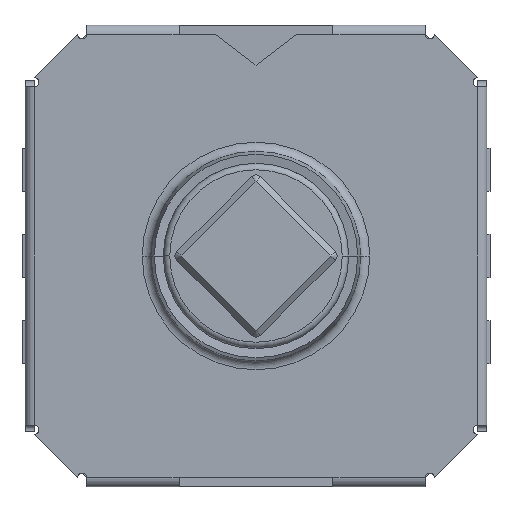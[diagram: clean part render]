
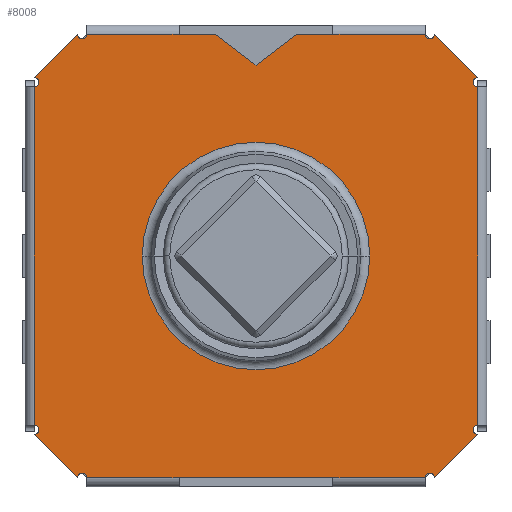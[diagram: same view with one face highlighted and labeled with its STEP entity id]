
A CAD part, front view. The second image highlights one B-rep face of the part: STEP entity #8008.
In plain terms, the highlighted planar face has unit normal (0, -1, 0).
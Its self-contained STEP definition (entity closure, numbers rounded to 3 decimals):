
#6506=DIRECTION('',(-1.,0.,0.));
#6507=VECTOR('',#6506,2.5);
#6508=CARTESIAN_POINT('',(1.25,-0.15,-3.6));
#6509=LINE('',#6508,#6507);
#6522=DIRECTION('',(-1.,0.,0.));
#6523=VECTOR('',#6522,1.5);
#6524=CARTESIAN_POINT('',(2.75,-0.15,-3.6));
#6525=LINE('',#6524,#6523);
#6540=DIRECTION('',(-1.,0.,0.));
#6541=VECTOR('',#6540,1.5);
#6542=CARTESIAN_POINT('',(-1.25,-0.15,-3.6));
#6543=LINE('',#6542,#6541);
#6558=DIRECTION('',(-0.793,0.,-0.61));
#6559=VECTOR('',#6558,0.82);
#6560=CARTESIAN_POINT('',(0.65,-0.15,3.6));
#6561=LINE('',#6560,#6559);
#6562=CARTESIAN_POINT('',(2.825,-0.15,3.6));
#6563=DIRECTION('',(0.,1.,0.));
#6564=DIRECTION('',(1.,0.,0.));
#6565=AXIS2_PLACEMENT_3D('',#6562,#6563,#6564);
#6567=DIRECTION('',(-0.707,0.,0.707));
#6568=VECTOR('',#6567,0.99);
#6569=CARTESIAN_POINT('',(3.6,-0.15,2.9));
#6570=LINE('',#6569,#6568);
#6571=CARTESIAN_POINT('',(3.6,-0.15,2.825));
#6572=DIRECTION('',(0.,-1.,0.));
#6573=DIRECTION('',(0.,0.,1.));
#6574=AXIS2_PLACEMENT_3D('',#6571,#6572,#6573);
#6576=CARTESIAN_POINT('',(3.6,-0.15,-2.825));
#6577=DIRECTION('',(0.,1.,0.));
#6578=DIRECTION('',(0.,0.,-1.));
#6579=AXIS2_PLACEMENT_3D('',#6576,#6577,#6578);
#6581=DIRECTION('',(0.707,0.,0.707));
#6582=VECTOR('',#6581,0.99);
#6583=CARTESIAN_POINT('',(2.9,-0.15,-3.6));
#6584=LINE('',#6583,#6582);
#6585=CARTESIAN_POINT('',(2.825,-0.15,-3.6));
#6586=DIRECTION('',(0.,-1.,0.));
#6587=DIRECTION('',(1.,0.,0.));
#6588=AXIS2_PLACEMENT_3D('',#6585,#6586,#6587);
#6590=CARTESIAN_POINT('',(-2.825,-0.15,-3.6));
#6591=DIRECTION('',(0.,1.,0.));
#6592=DIRECTION('',(-1.,0.,0.));
#6593=AXIS2_PLACEMENT_3D('',#6590,#6591,#6592);
#6595=DIRECTION('',(0.707,0.,-0.707));
#6596=VECTOR('',#6595,0.99);
#6597=CARTESIAN_POINT('',(-3.6,-0.15,-2.9));
#6598=LINE('',#6597,#6596);
#6599=CARTESIAN_POINT('',(-3.6,-0.15,-2.825));
#6600=DIRECTION('',(0.,-1.,0.));
#6601=DIRECTION('',(0.,0.,-1.));
#6602=AXIS2_PLACEMENT_3D('',#6599,#6600,#6601);
#6604=CARTESIAN_POINT('',(-3.6,-0.15,2.825));
#6605=DIRECTION('',(0.,1.,0.));
#6606=DIRECTION('',(0.,0.,1.));
#6607=AXIS2_PLACEMENT_3D('',#6604,#6605,#6606);
#6609=DIRECTION('',(-0.707,0.,-0.707));
#6610=VECTOR('',#6609,0.99);
#6611=CARTESIAN_POINT('',(-2.9,-0.15,3.6));
#6612=LINE('',#6611,#6610);
#6613=CARTESIAN_POINT('',(-2.825,-0.15,3.6));
#6614=DIRECTION('',(0.,-1.,0.));
#6615=DIRECTION('',(-1.,0.,0.));
#6616=AXIS2_PLACEMENT_3D('',#6613,#6614,#6615);
#6618=DIRECTION('',(-0.793,0.,0.61));
#6619=VECTOR('',#6618,0.82);
#6620=CARTESIAN_POINT('',(0.,-0.15,3.1));
#6621=LINE('',#6620,#6619);
#6634=DIRECTION('',(1.,0.,0.));
#6635=VECTOR('',#6634,0.6);
#6636=CARTESIAN_POINT('',(0.65,-0.15,3.6));
#6637=LINE('',#6636,#6635);
#6662=DIRECTION('',(1.,0.,0.));
#6663=VECTOR('',#6662,0.6);
#6664=CARTESIAN_POINT('',(-1.25,-0.15,3.6));
#6665=LINE('',#6664,#6663);
#6674=DIRECTION('',(1.,0.,0.));
#6675=VECTOR('',#6674,1.5);
#6676=CARTESIAN_POINT('',(1.25,-0.15,3.6));
#6677=LINE('',#6676,#6675);
#6692=DIRECTION('',(1.,0.,0.));
#6693=VECTOR('',#6692,1.5);
#6694=CARTESIAN_POINT('',(-2.75,-0.15,3.6));
#6695=LINE('',#6694,#6693);
#6752=DIRECTION('',(0.,0.,1.));
#6753=VECTOR('',#6752,5.5);
#6754=CARTESIAN_POINT('',(-3.6,-0.15,-2.75));
#6755=LINE('',#6754,#6753);
#6858=DIRECTION('',(0.,0.,-1.));
#6859=VECTOR('',#6858,5.5);
#6860=CARTESIAN_POINT('',(3.6,-0.15,2.75));
#6861=LINE('',#6860,#6859);
#6862=CARTESIAN_POINT('',(0.,-0.15,0.));
#6863=DIRECTION('',(0.,1.,0.));
#6864=DIRECTION('',(1.,0.,0.));
#6865=AXIS2_PLACEMENT_3D('',#6862,#6863,#6864);
#6872=CARTESIAN_POINT('',(0.,-0.15,0.));
#6873=DIRECTION('',(0.,1.,0.));
#6874=DIRECTION('',(-1.,0.,0.));
#6875=AXIS2_PLACEMENT_3D('',#6872,#6873,#6874);
#7006=CARTESIAN_POINT('',(2.9,-0.15,3.6));
#7007=CARTESIAN_POINT('',(2.75,-0.15,3.6));
#7008=VERTEX_POINT('',#7006);
#7009=VERTEX_POINT('',#7007);
#7016=CARTESIAN_POINT('',(-2.9,-0.15,3.6));
#7017=CARTESIAN_POINT('',(-2.75,-0.15,3.6));
#7018=VERTEX_POINT('',#7016);
#7019=VERTEX_POINT('',#7017);
#7026=CARTESIAN_POINT('',(-2.9,-0.15,-3.6));
#7027=CARTESIAN_POINT('',(-2.75,-0.15,-3.6));
#7028=VERTEX_POINT('',#7026);
#7029=VERTEX_POINT('',#7027);
#7036=CARTESIAN_POINT('',(2.9,-0.15,-3.6));
#7037=CARTESIAN_POINT('',(2.75,-0.15,-3.6));
#7038=VERTEX_POINT('',#7036);
#7039=VERTEX_POINT('',#7037);
#7074=CARTESIAN_POINT('',(1.25,-0.15,3.6));
#7075=VERTEX_POINT('',#7074);
#7076=CARTESIAN_POINT('',(-1.25,-0.15,3.6));
#7077=VERTEX_POINT('',#7076);
#7078=CARTESIAN_POINT('',(-1.25,-0.15,-3.6));
#7079=VERTEX_POINT('',#7078);
#7080=CARTESIAN_POINT('',(1.25,-0.15,-3.6));
#7081=VERTEX_POINT('',#7080);
#7094=CARTESIAN_POINT('',(3.6,-0.15,-2.9));
#7095=CARTESIAN_POINT('',(3.6,-0.15,-2.75));
#7096=VERTEX_POINT('',#7094);
#7097=VERTEX_POINT('',#7095);
#7100=CARTESIAN_POINT('',(3.6,-0.15,2.9));
#7101=VERTEX_POINT('',#7100);
#7102=CARTESIAN_POINT('',(3.6,-0.15,2.75));
#7103=VERTEX_POINT('',#7102);
#7126=CARTESIAN_POINT('',(-3.6,-0.15,2.9));
#7127=CARTESIAN_POINT('',(-3.6,-0.15,2.75));
#7128=VERTEX_POINT('',#7126);
#7129=VERTEX_POINT('',#7127);
#7132=CARTESIAN_POINT('',(-3.6,-0.15,-2.9));
#7133=VERTEX_POINT('',#7132);
#7134=CARTESIAN_POINT('',(-3.6,-0.15,-2.75));
#7135=VERTEX_POINT('',#7134);
#7160=CARTESIAN_POINT('',(0.65,-0.15,3.6));
#7161=CARTESIAN_POINT('',(0.,-0.15,3.1));
#7162=VERTEX_POINT('',#7160);
#7163=VERTEX_POINT('',#7161);
#7164=CARTESIAN_POINT('',(-0.65,-0.15,3.6));
#7165=VERTEX_POINT('',#7164);
#7178=CARTESIAN_POINT('',(1.847,-0.15,0.));
#7180=VERTEX_POINT('',#7178);
#7184=CARTESIAN_POINT('',(-1.847,-0.15,0.));
#7186=VERTEX_POINT('',#7184);
#7958=CARTESIAN_POINT('',(0.,-0.15,0.));
#7959=DIRECTION('',(0.,-1.,0.));
#7960=DIRECTION('',(1.,0.,0.));
#7961=AXIS2_PLACEMENT_3D('',#7958,#7959,#7960);
#7962=PLANE('',#7961);
#7964=ORIENTED_EDGE('',*,*,#7963,.F.);
#7966=ORIENTED_EDGE('',*,*,#7965,.T.);
#7968=ORIENTED_EDGE('',*,*,#7967,.T.);
#7969=ORIENTED_EDGE('',*,*,#7510,.F.);
#7970=ORIENTED_EDGE('',*,*,#7524,.F.);
#7971=ORIENTED_EDGE('',*,*,#7537,.T.);
#7973=ORIENTED_EDGE('',*,*,#7972,.T.);
#7974=ORIENTED_EDGE('',*,*,#7683,.F.);
#7975=ORIENTED_EDGE('',*,*,#7697,.F.);
#7976=ORIENTED_EDGE('',*,*,#7710,.T.);
#7977=ORIENTED_EDGE('',*,*,#7936,.T.);
#7978=ORIENTED_EDGE('',*,*,#7887,.T.);
#7979=ORIENTED_EDGE('',*,*,#7949,.T.);
#7981=ORIENTED_EDGE('',*,*,#7980,.F.);
#7983=ORIENTED_EDGE('',*,*,#7982,.F.);
#7985=ORIENTED_EDGE('',*,*,#7984,.T.);
#7987=ORIENTED_EDGE('',*,*,#7986,.T.);
#7989=ORIENTED_EDGE('',*,*,#7988,.F.);
#7991=ORIENTED_EDGE('',*,*,#7990,.F.);
#7993=ORIENTED_EDGE('',*,*,#7992,.T.);
#7995=ORIENTED_EDGE('',*,*,#7994,.T.);
#7997=ORIENTED_EDGE('',*,*,#7996,.T.);
#7999=ORIENTED_EDGE('',*,*,#7998,.F.);
#8000=EDGE_LOOP('',(#7964,#7966,#7968,#7969,#7970,#7971,#7973,#7974,#7975,#7976,
#7977,#7978,#7979,#7981,#7983,#7985,#7987,#7989,#7991,#7993,#7995,#7997,#7999));
#8001=FACE_OUTER_BOUND('',#8000,.F.);
#8003=ORIENTED_EDGE('',*,*,#8002,.F.);
#8005=ORIENTED_EDGE('',*,*,#8004,.F.);
#8006=EDGE_LOOP('',(#8003,#8005));
#8007=FACE_BOUND('',#8006,.F.);
#6566=CIRCLE('',#6565,0.075);
#6575=CIRCLE('',#6574,0.075);
#6580=CIRCLE('',#6579,0.075);
#6589=CIRCLE('',#6588,0.075);
#6594=CIRCLE('',#6593,0.075);
#6603=CIRCLE('',#6602,0.075);
#6608=CIRCLE('',#6607,0.075);
#6617=CIRCLE('',#6616,0.075);
#6866=CIRCLE('',#6865,1.847);
#6876=CIRCLE('',#6875,1.847);
#7510=EDGE_CURVE('',#7008,#7009,#6566,.T.);
#7524=EDGE_CURVE('',#7101,#7008,#6570,.T.);
#7537=EDGE_CURVE('',#7101,#7103,#6575,.T.);
#7683=EDGE_CURVE('',#7096,#7097,#6580,.T.);
#7697=EDGE_CURVE('',#7038,#7096,#6584,.T.);
#7710=EDGE_CURVE('',#7038,#7039,#6589,.T.);
#7887=EDGE_CURVE('',#7081,#7079,#6509,.T.);
#7936=EDGE_CURVE('',#7039,#7081,#6525,.T.);
#7949=EDGE_CURVE('',#7079,#7029,#6543,.T.);
#7963=EDGE_CURVE('',#7162,#7163,#6561,.T.);
#7965=EDGE_CURVE('',#7162,#7075,#6637,.T.);
#7967=EDGE_CURVE('',#7075,#7009,#6677,.T.);
#7972=EDGE_CURVE('',#7103,#7097,#6861,.T.);
#7980=EDGE_CURVE('',#7028,#7029,#6594,.T.);
#7982=EDGE_CURVE('',#7133,#7028,#6598,.T.);
#7984=EDGE_CURVE('',#7133,#7135,#6603,.T.);
#7986=EDGE_CURVE('',#7135,#7129,#6755,.T.);
#7988=EDGE_CURVE('',#7128,#7129,#6608,.T.);
#7990=EDGE_CURVE('',#7018,#7128,#6612,.T.);
#7992=EDGE_CURVE('',#7018,#7019,#6617,.T.);
#7994=EDGE_CURVE('',#7019,#7077,#6695,.T.);
#7996=EDGE_CURVE('',#7077,#7165,#6665,.T.);
#7998=EDGE_CURVE('',#7163,#7165,#6621,.T.);
#8002=EDGE_CURVE('',#7180,#7186,#6866,.T.);
#8004=EDGE_CURVE('',#7186,#7180,#6876,.T.);
#8008=ADVANCED_FACE('',(#8001,#8007),#7962,.T.);
